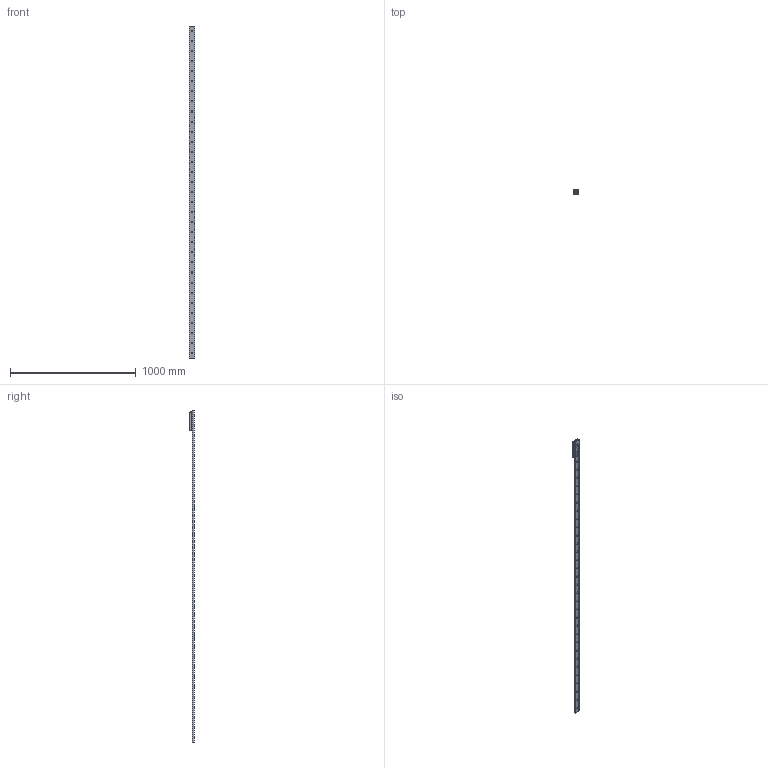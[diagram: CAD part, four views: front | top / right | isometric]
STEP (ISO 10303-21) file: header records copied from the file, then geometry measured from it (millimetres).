
FILE_DESCRIPTION( ( 'STEP AP214' ), '1' );
FILE_NAME( 'p:/temp/worker_15/temp/exporttempdir_3956_221_Uxo5f/format_1/TGV-02640_1_RV43G-3.stp', '2021-05-14T19:19:42', ( 'License CC BY-ND 4.0' ), ( 'CADENAS' ), ' ', 'PARTsolutions', ' ' );
FILE_SCHEMA( ( 'AUTOMOTIVE_DESIGN { 1 0 10303 214 1 1 1 1 }' ) );
Length unit declared in the file: millimetre
Products named in the file (6): TGV-02640/1/RV43G-3; _TGV43-2640-(3-1); _RVG43-3-slider; _RGNV43R; _RGAV43R; _WR43G-01
Assembly tree (7 placements, depth 2):
  TGV-02640/1/RV43G-3
    _TGV43-2640-(3-1)
    _RVG43-3-slider
    _RGNV43R  x2
    _RGAV43R
    _WR43G-01  x2
Bounding box: 43 x 37 x 2640 mm (x, y, z)
Volume: 1087334.2 mm3; surface area: 437901.4 mm2
Topology: 7 solids, 7 shells, 1107 faces, 2889 edges, 1878 vertices
Faces by surface type: plane 663, cylinder 329, cone 72, bspline 34, torus 9
Full cylindrical faces by diameter (mm): 1.76 x4, 3 x8, 6 x4, 6.647 x4, 6.8 x3, 8 x3, 8.5 x33, 11 x11, 15 x6, 15.5 x1, 18.98 x2, 19 x1, 31.4 x6
Entity records: 26803 total; most frequent: CARTESIAN_POINT 4190, DIRECTION 3597, ORIENTED_EDGE 3262, EDGE_CURVE 1631, AXIS2_PLACEMENT_3D 1395, VERTEX_POINT 1150, EDGE_LOOP 995, LINE 807
